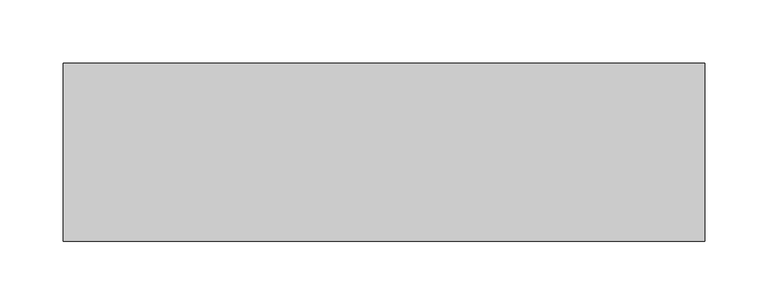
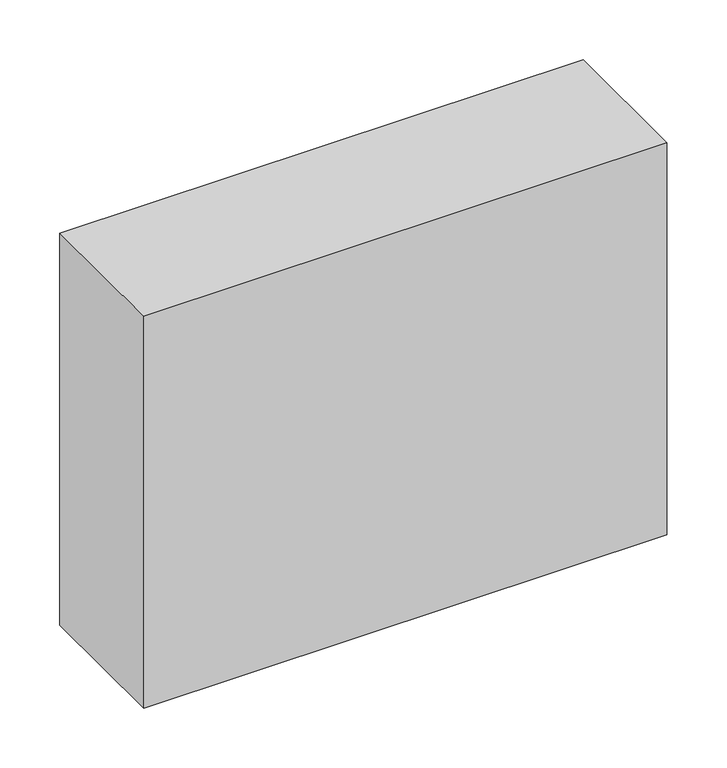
"""IFC4 building model written with IfcOpenShell, lengths in millimetres: proxy geometry."""

from ifc_helpers import new_model, si_unit, frame, origin, place, context, project, spatial, polyline, outline, extrude, source, transform, mapped, element, save


def structural_framing_4ba866ab(model_context):
    return source(origin(), model_context, "Body", "SweptSolid", [
        extrude(outline(polyline([(-252.55, -70.0), (-252.55, 70.0), (252.55, 70.0), (252.55, -70.0), (-252.55, -70.0)])), frame((0.0, 0.0, -400.0), z_axis=(0.0, 0.0, 1.0), x_axis=(1.0, 0.0, 0.0)), (0.0, 0.0, 1.0), 400.0),
    ])


if __name__ == "__main__":
    model = new_model("IFC4")
    model_context = context("Model", 3, world=origin())
    ifc_project = project(units=[si_unit("LENGTHUNIT", "METRE", prefix="MILLI")], contexts=[model_context])
    site = spatial("IfcSite", under=ifc_project)
    building = spatial("IfcBuilding", under=site)
    placement = place(None, origin())
    structural_framing_shape = structural_framing_4ba866ab(model_context)
    element("IfcBuildingElementProxy", 1, Name="Structural Framing", at=placement, inside=building, context=model_context, shape_type="MappedRepresentation", body=[
        mapped(structural_framing_shape, transform((0.0, 0.0, 0.0), x_axis=(1.0, 0.0, 0.0), y_axis=(0.0, 1.0, 0.0), z_axis=(0.0, 0.0, 1.0))),
    ])
    save(model, "model.ifc")
